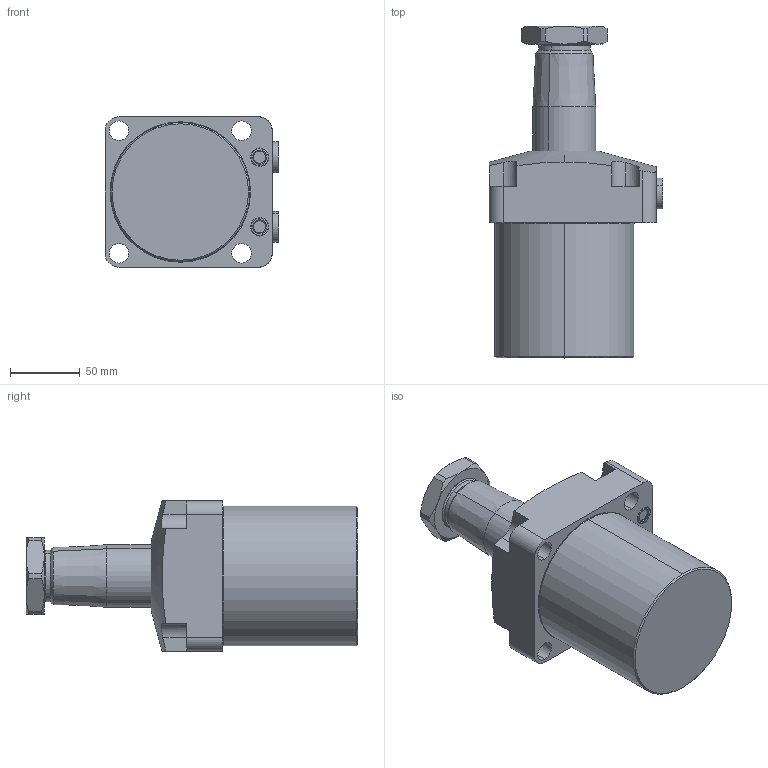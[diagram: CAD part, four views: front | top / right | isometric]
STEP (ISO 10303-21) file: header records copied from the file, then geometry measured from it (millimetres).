
FILE_DESCRIPTION(/* description */ (''),/* implementation_level */ '2;1');
FILE_NAME(/* name */ 'TRC25-RN60.stp',/* time_stamp */ '2025-01-04T10:44:43+08:00',/* author */ (''),/* organization */ (''),/* preprocessor_version */ 'ST-DEVELOPER v16.7',/* originating_system */ 'SIEMENS PLM Software NX 12.0',/* authorisation */ '');
FILE_SCHEMA (('AUTOMOTIVE_DESIGN { 1 0 10303 214 3 1 1 1 }'));
Length unit declared in the file: millimetre
Products named in the file (5): TRC25-RN60-02; TRC25-RN60-01; TRC25-RN60-03; TRC25-RN60-04; TRC25-RN60_stp
Assembly tree (5 placements, depth 2):
  TRC25-RN60_stp
    TRC25-RN60-04  x2
    TRC25-RN60-03
    TRC25-RN60-01
    TRC25-RN60-02
Bounding box: 124.8 x 238.3 x 108 mm (x, y, z)
Volume: 1413009.6 mm3; surface area: 111712.9 mm2
Topology: 5 solids, 7 shells, 203 faces, 465 edges, 288 vertices
Faces by surface type: cylinder 73, plane 67, cone 40, torus 22, sphere 1
Entity records: 5410 total; most frequent: CARTESIAN_POINT 1086, DIRECTION 938, ORIENTED_EDGE 836, EDGE_CURVE 418, AXIS2_PLACEMENT_3D 386, VERTEX_POINT 260, EDGE_LOOP 206, CIRCLE 199
